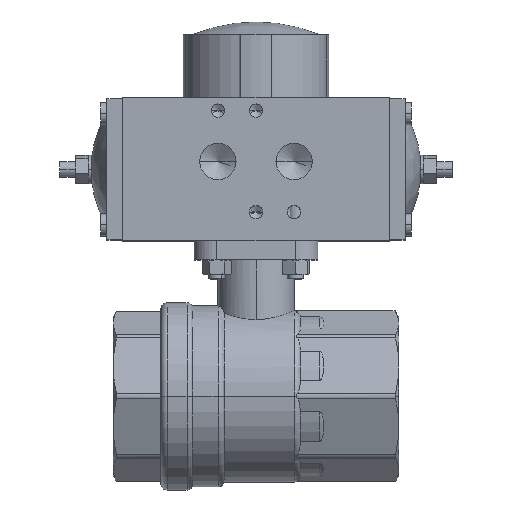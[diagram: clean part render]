
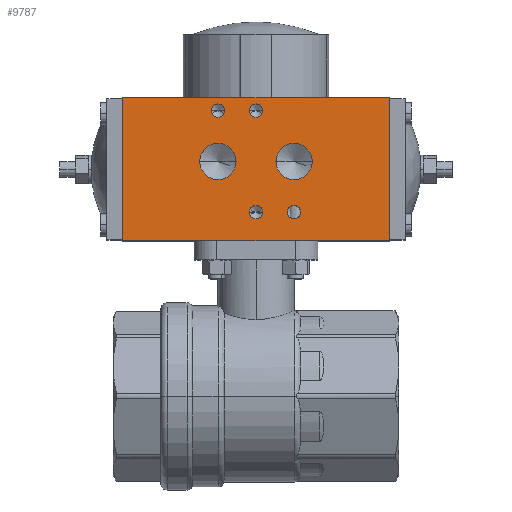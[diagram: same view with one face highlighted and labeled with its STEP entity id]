
A CAD part, top view. The second image highlights one B-rep face of the part: STEP entity #9787.
In plain terms, the highlighted planar face has unit normal (0, 0, 1) as drawn and (1, 0, 0) by its records, which use the part's own axes.
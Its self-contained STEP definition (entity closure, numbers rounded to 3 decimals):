
#854 = CARTESIAN_POINT ( 'NONE',  ( 28.5, -22.5, -42. ) ) ;
#858 = FACE_BOUND ( 'NONE', #5129, .T. ) ;
#861 = FACE_BOUND ( 'NONE', #5151, .T. ) ;
#862 = FACE_BOUND ( 'NONE', #5153, .T. ) ;
#863 = FACE_BOUND ( 'NONE', #5144, .T. ) ;
#864 = FACE_OUTER_BOUND ( 'NONE', #5154, .T. ) ;
#865 = FACE_BOUND ( 'NONE', #5152, .T. ) ;
#866 = PLANE ( 'NONE',  #6579 ) ;
#867 = FACE_BOUND ( 'NONE', #5150, .T. ) ;
#870 = DIRECTION ( 'NONE',  ( 1., 0., 0. ) ) ;
#871 = DIRECTION ( 'NONE',  ( 0., 0., -1. ) ) ;
#1237 = CARTESIAN_POINT ( 'NONE',  ( 28.5, 18.5, 12. ) ) ;
#1238 = DIRECTION ( 'NONE',  ( 1., 0., 0. ) ) ;
#1239 = DIRECTION ( 'NONE',  ( 0., 0., -1. ) ) ;
#1253 = CARTESIAN_POINT ( 'NONE',  ( 28.5, -13.5, -12. ) ) ;
#1254 = DIRECTION ( 'NONE',  ( 1., 0., 0. ) ) ;
#1255 = DIRECTION ( 'NONE',  ( 0., 0., -1. ) ) ;
#1282 = CARTESIAN_POINT ( 'NONE',  ( 28.5, -13.5, 0. ) ) ;
#1283 = DIRECTION ( 'NONE',  ( 1., 0., 0. ) ) ;
#1284 = DIRECTION ( 'NONE',  ( 0., 0., -1. ) ) ;
#1300 = CARTESIAN_POINT ( 'NONE',  ( 28.5, 18.5, 0. ) ) ;
#1301 = DIRECTION ( 'NONE',  ( 1., 0., 0. ) ) ;
#1302 = DIRECTION ( 'NONE',  ( 0., 0., -1. ) ) ;
#1318 = CARTESIAN_POINT ( 'NONE',  ( 28.5, 2.5, -12. ) ) ;
#1319 = DIRECTION ( 'NONE',  ( 1., 0., 0. ) ) ;
#1320 = DIRECTION ( 'NONE',  ( 0., 0., -1. ) ) ;
#1336 = CARTESIAN_POINT ( 'NONE',  ( 28.5, 2.5, 12. ) ) ;
#1337 = DIRECTION ( 'NONE',  ( 1., 0., 0. ) ) ;
#1338 = DIRECTION ( 'NONE',  ( 0., 0., -1. ) ) ;
#2812 = CIRCLE ( 'NONE', #2816, 2.1 ) ;
#2816 = AXIS2_PLACEMENT_3D ( 'NONE', #1237, #1238, #1239 ) ;
#2820 = CIRCLE ( 'NONE', #2824, 2.1 ) ;
#2824 = AXIS2_PLACEMENT_3D ( 'NONE', #1253, #1254, #1255 ) ;
#2829 = CIRCLE ( 'NONE', #2832, 2.1 ) ;
#2832 = AXIS2_PLACEMENT_3D ( 'NONE', #1282, #1283, #1284 ) ;
#2836 = CIRCLE ( 'NONE', #2840, 2.1 ) ;
#2840 = AXIS2_PLACEMENT_3D ( 'NONE', #1300, #1301, #1302 ) ;
#2844 = CIRCLE ( 'NONE', #2848, 5.722 ) ;
#2848 = AXIS2_PLACEMENT_3D ( 'NONE', #1318, #1319, #1320 ) ;
#2852 = CIRCLE ( 'NONE', #2856, 5.722 ) ;
#2856 = AXIS2_PLACEMENT_3D ( 'NONE', #1336, #1337, #1338 ) ;
#5129 = EDGE_LOOP ( 'NONE', ( #10483, #10484 ) ) ;
#5144 = EDGE_LOOP ( 'NONE', ( #10491, #10492 ) ) ;
#5150 = EDGE_LOOP ( 'NONE', ( #10487, #10488 ) ) ;
#5151 = EDGE_LOOP ( 'NONE', ( #10489, #10490 ) ) ;
#5152 = EDGE_LOOP ( 'NONE', ( #10485, #10486 ) ) ;
#5153 = EDGE_LOOP ( 'NONE', ( #10481, #10482 ) ) ;
#5154 = EDGE_LOOP ( 'NONE', ( #10493, #10494, #10495, #10496 ) ) ;
#6579 = AXIS2_PLACEMENT_3D ( 'NONE', #854, #870, #871 ) ;
#7301 = EDGE_CURVE ( 'NONE', #13513, #13514, #2812, .T. ) ;
#7307 = EDGE_CURVE ( 'NONE', #13518, #13519, #2820, .T. ) ;
#7313 = EDGE_CURVE ( 'NONE', #13524, #13525, #2829, .T. ) ;
#7319 = EDGE_CURVE ( 'NONE', #13529, #13530, #2836, .T. ) ;
#7325 = EDGE_CURVE ( 'NONE', #13534, #13535, #2844, .T. ) ;
#7331 = EDGE_CURVE ( 'NONE', #13539, #13540, #2852, .T. ) ;
#8288 = LINE ( 'NONE', #8298, #14956 ) ;
#8298 = CARTESIAN_POINT ( 'NONE',  ( 28.5, -22.5, -42. ) ) ;
#8300 = DIRECTION ( 'NONE',  ( 0., 1., 0. ) ) ;
#8321 = LINE ( 'NONE', #8322, #14965 ) ;
#8322 = CARTESIAN_POINT ( 'NONE',  ( 28.5, -22.5, 42. ) ) ;
#8323 = DIRECTION ( 'NONE',  ( 0., 1., 0. ) ) ;
#8349 = LINE ( 'NONE', #8350, #14980 ) ;
#8350 = CARTESIAN_POINT ( 'NONE',  ( 28.5, 22.5, -42. ) ) ;
#8357 = DIRECTION ( 'NONE',  ( 0., 0., 1. ) ) ;
#8358 = CARTESIAN_POINT ( 'NONE',  ( 28.5, 18.5, 12. ) ) ;
#8359 = DIRECTION ( 'NONE',  ( 1., 0., 0. ) ) ;
#8360 = DIRECTION ( 'NONE',  ( 0., 0., -1. ) ) ;
#8361 = CARTESIAN_POINT ( 'NONE',  ( 28.5, -13.5, -12. ) ) ;
#8362 = DIRECTION ( 'NONE',  ( 1., 0., 0. ) ) ;
#8363 = DIRECTION ( 'NONE',  ( 0., 0., -1. ) ) ;
#8364 = CARTESIAN_POINT ( 'NONE',  ( 28.5, -13.5, 0. ) ) ;
#8365 = DIRECTION ( 'NONE',  ( 1., 0., 0. ) ) ;
#8366 = DIRECTION ( 'NONE',  ( 0., 0., -1. ) ) ;
#8367 = CARTESIAN_POINT ( 'NONE',  ( 28.5, 18.5, 0. ) ) ;
#8368 = DIRECTION ( 'NONE',  ( 1., 0., 0. ) ) ;
#8369 = DIRECTION ( 'NONE',  ( 0., 0., -1. ) ) ;
#8370 = LINE ( 'NONE', #8371, #14993 ) ;
#8371 = CARTESIAN_POINT ( 'NONE',  ( 28.5, -22.5, -42. ) ) ;
#8372 = CARTESIAN_POINT ( 'NONE',  ( 28.5, 2.5, -12. ) ) ;
#8373 = DIRECTION ( 'NONE',  ( 1., 0., 0. ) ) ;
#8374 = DIRECTION ( 'NONE',  ( 0., 0., -1. ) ) ;
#8375 = CARTESIAN_POINT ( 'NONE',  ( 28.5, 2.5, 12. ) ) ;
#8376 = DIRECTION ( 'NONE',  ( 1., 0., 0. ) ) ;
#8377 = DIRECTION ( 'NONE',  ( 0., 0., -1. ) ) ;
#8378 = DIRECTION ( 'NONE',  ( 0., 0., 1. ) ) ;
#8738 = CARTESIAN_POINT ( 'NONE',  ( 28.5, 18.5, 14.1 ) ) ;
#8739 = CARTESIAN_POINT ( 'NONE',  ( 28.5, 18.5, 9.9 ) ) ;
#8743 = CARTESIAN_POINT ( 'NONE',  ( 28.5, -13.5, -9.9 ) ) ;
#8744 = CARTESIAN_POINT ( 'NONE',  ( 28.5, -13.5, -14.1 ) ) ;
#8749 = CARTESIAN_POINT ( 'NONE',  ( 28.5, -13.5, 2.1 ) ) ;
#8750 = CARTESIAN_POINT ( 'NONE',  ( 28.5, -13.5, -2.1 ) ) ;
#8754 = CARTESIAN_POINT ( 'NONE',  ( 28.5, 18.5, 2.1 ) ) ;
#8755 = CARTESIAN_POINT ( 'NONE',  ( 28.5, 18.5, -2.1 ) ) ;
#8759 = CARTESIAN_POINT ( 'NONE',  ( 28.5, 2.5, -6.277 ) ) ;
#8760 = CARTESIAN_POINT ( 'NONE',  ( 28.5, 2.5, -17.722 ) ) ;
#8764 = CARTESIAN_POINT ( 'NONE',  ( 28.5, 2.5, 17.722 ) ) ;
#8765 = CARTESIAN_POINT ( 'NONE',  ( 28.5, 2.5, 6.277 ) ) ;
#8892 = CARTESIAN_POINT ( 'NONE',  ( 28.5, -22.5, -42. ) ) ;
#8893 = CARTESIAN_POINT ( 'NONE',  ( 28.5, 22.5, -42. ) ) ;
#8901 = CARTESIAN_POINT ( 'NONE',  ( 28.5, -22.5, 42. ) ) ;
#8902 = CARTESIAN_POINT ( 'NONE',  ( 28.5, 22.5, 42. ) ) ;
#9787 = ADVANCED_FACE ( 'NONE', ( #862, #858, #865, #867, #861, #863, #864 ), #866, .T. ) ;
#10481 = ORIENTED_EDGE ( 'NONE', *, *, #10976, .F. ) ;
#10482 = ORIENTED_EDGE ( 'NONE', *, *, #7301, .F. ) ;
#10483 = ORIENTED_EDGE ( 'NONE', *, *, #10977, .F. ) ;
#10484 = ORIENTED_EDGE ( 'NONE', *, *, #7307, .F. ) ;
#10485 = ORIENTED_EDGE ( 'NONE', *, *, #10978, .F. ) ;
#10486 = ORIENTED_EDGE ( 'NONE', *, *, #7313, .F. ) ;
#10487 = ORIENTED_EDGE ( 'NONE', *, *, #10979, .F. ) ;
#10488 = ORIENTED_EDGE ( 'NONE', *, *, #7319, .F. ) ;
#10489 = ORIENTED_EDGE ( 'NONE', *, *, #10980, .F. ) ;
#10490 = ORIENTED_EDGE ( 'NONE', *, *, #7325, .F. ) ;
#10491 = ORIENTED_EDGE ( 'NONE', *, *, #10981, .F. ) ;
#10492 = ORIENTED_EDGE ( 'NONE', *, *, #7331, .F. ) ;
#10493 = ORIENTED_EDGE ( 'NONE', *, *, #10975, .T. ) ;
#10494 = ORIENTED_EDGE ( 'NONE', *, *, #10963, .F. ) ;
#10495 = ORIENTED_EDGE ( 'NONE', *, *, #10982, .F. ) ;
#10496 = ORIENTED_EDGE ( 'NONE', *, *, #10955, .T. ) ;
#10955 = EDGE_CURVE ( 'NONE', #13664, #13665, #8288, .T. ) ;
#10963 = EDGE_CURVE ( 'NONE', #13673, #13674, #8321, .T. ) ;
#10975 = EDGE_CURVE ( 'NONE', #13665, #13674, #8349, .T. ) ;
#10976 = EDGE_CURVE ( 'NONE', #13514, #13513, #14982, .T. ) ;
#10977 = EDGE_CURVE ( 'NONE', #13519, #13518, #14983, .T. ) ;
#10978 = EDGE_CURVE ( 'NONE', #13525, #13524, #14985, .T. ) ;
#10979 = EDGE_CURVE ( 'NONE', #13530, #13529, #14987, .T. ) ;
#10980 = EDGE_CURVE ( 'NONE', #13535, #13534, #14989, .T. ) ;
#10981 = EDGE_CURVE ( 'NONE', #13540, #13539, #14991, .T. ) ;
#10982 = EDGE_CURVE ( 'NONE', #13664, #13673, #8370, .T. ) ;
#13513 = VERTEX_POINT ( 'NONE', #8738 ) ;
#13514 = VERTEX_POINT ( 'NONE', #8739 ) ;
#13518 = VERTEX_POINT ( 'NONE', #8743 ) ;
#13519 = VERTEX_POINT ( 'NONE', #8744 ) ;
#13524 = VERTEX_POINT ( 'NONE', #8749 ) ;
#13525 = VERTEX_POINT ( 'NONE', #8750 ) ;
#13529 = VERTEX_POINT ( 'NONE', #8754 ) ;
#13530 = VERTEX_POINT ( 'NONE', #8755 ) ;
#13534 = VERTEX_POINT ( 'NONE', #8759 ) ;
#13535 = VERTEX_POINT ( 'NONE', #8760 ) ;
#13539 = VERTEX_POINT ( 'NONE', #8764 ) ;
#13540 = VERTEX_POINT ( 'NONE', #8765 ) ;
#13664 = VERTEX_POINT ( 'NONE', #8892 ) ;
#13665 = VERTEX_POINT ( 'NONE', #8893 ) ;
#13673 = VERTEX_POINT ( 'NONE', #8901 ) ;
#13674 = VERTEX_POINT ( 'NONE', #8902 ) ;
#14956 = VECTOR ( 'NONE', #8300, 1000. ) ;
#14965 = VECTOR ( 'NONE', #8323, 1000. ) ;
#14980 = VECTOR ( 'NONE', #8357, 1000. ) ;
#14982 = CIRCLE ( 'NONE', #14984, 2.1 ) ;
#14983 = CIRCLE ( 'NONE', #14986, 2.1 ) ;
#14984 = AXIS2_PLACEMENT_3D ( 'NONE', #8358, #8359, #8360 ) ;
#14985 = CIRCLE ( 'NONE', #14988, 2.1 ) ;
#14986 = AXIS2_PLACEMENT_3D ( 'NONE', #8361, #8362, #8363 ) ;
#14987 = CIRCLE ( 'NONE', #14990, 2.1 ) ;
#14988 = AXIS2_PLACEMENT_3D ( 'NONE', #8364, #8365, #8366 ) ;
#14989 = CIRCLE ( 'NONE', #14992, 5.722 ) ;
#14990 = AXIS2_PLACEMENT_3D ( 'NONE', #8367, #8368, #8369 ) ;
#14991 = CIRCLE ( 'NONE', #14994, 5.722 ) ;
#14992 = AXIS2_PLACEMENT_3D ( 'NONE', #8372, #8373, #8374 ) ;
#14993 = VECTOR ( 'NONE', #8378, 1000. ) ;
#14994 = AXIS2_PLACEMENT_3D ( 'NONE', #8375, #8376, #8377 ) ;
